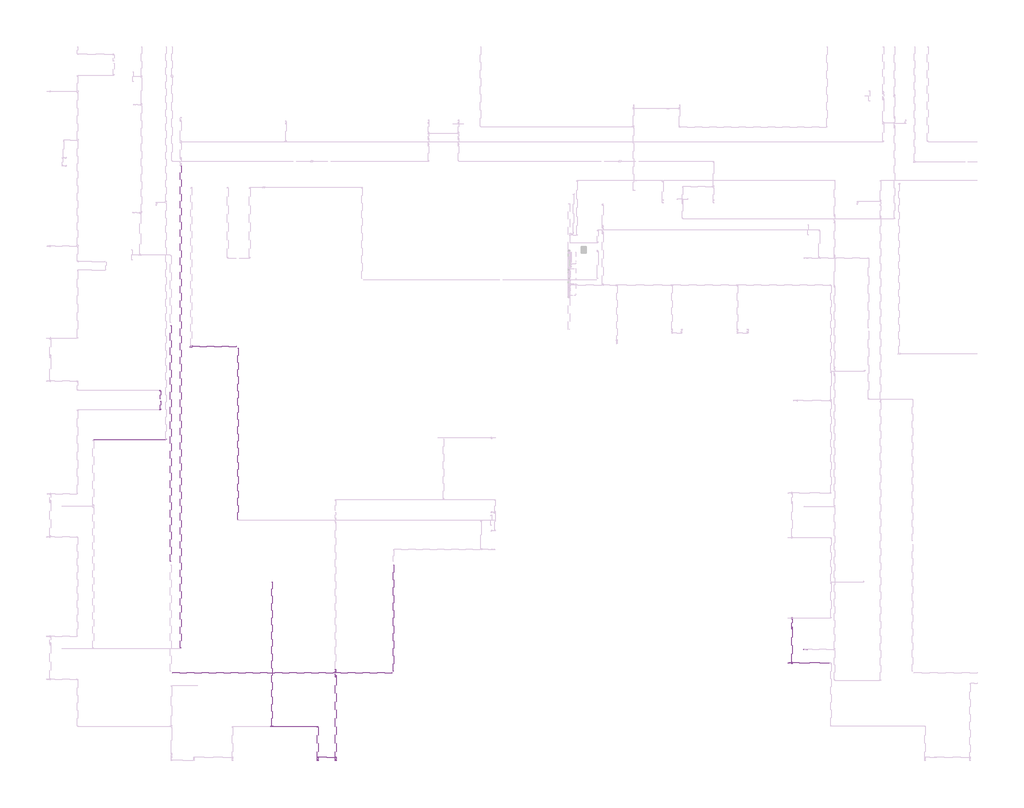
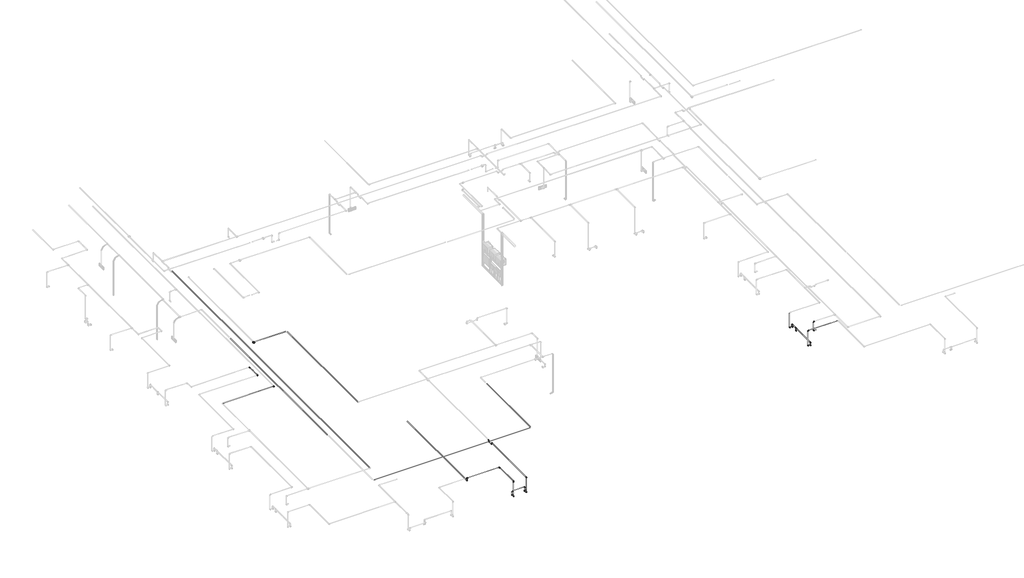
# One storey, part 3 of 40: 36 cable carrier segments, 24 cable carrier fittings, 5 electric appliances, 1 alarm.
"""IFC4 building model written with IfcOpenShell, lengths in millimetres."""

from ifc_helpers import new_model, si_unit, point, frame, frame_2d, origin, place, context, project, spatial, circle_curve, trimmed, segment, composite_curve, outline, extrude, transform, mapped, element, save
from components import alarm_a2247946, cable_carrier_fitting_69f1a801, cable_carrier_fitting_8fd13dfc, electric_appliance_5961a143

model = new_model("IFC4")

# Units and contexts
model_context = context("Model", 3, world=origin())
ifc_project = project(units=[si_unit("LENGTHUNIT", "METRE", prefix="MILLI")], contexts=[model_context])

# Site, building, storey
site = spatial("IfcSite", under=ifc_project)
building = spatial("IfcBuilding", under=site)
storey = spatial("IfcBuildingStorey", under=building, Name="1 этаж", Elevation=0.0)

# Alarm
placement = place(None, origin())
alarm_shape = alarm_a2247946(model_context)
element("IfcAlarm", 1, ObjectType="RBZ_ИзоляторШлейфа_Рубеж_ИЗ-1_прот.R3(плоскость) : ИЗ-1 прот.R3", at=placement, inside=storey, context=model_context, shape_type="MappedRepresentation", body=[
    mapped(alarm_shape, transform((-34172.3240021, -270.3629895, 3197.75), x_axis=(1.0, 0.0, 0.0), y_axis=(0.0, 1.0, 0.0), z_axis=(0.0, 0.0, 1.0))),
])

# Cable carrier fittings
cable_carrier_fitting_shape = cable_carrier_fitting_69f1a801(model_context)
element("IfcCableCarrierFitting", 2, ObjectType="ADSK_Поворот_Минимальный размер : Неспецифицируемый", at=placement, inside=storey, context=model_context, shape_type="MappedRepresentation", body=[
    mapped(cable_carrier_fitting_shape, transform((-29965.3597128, -9694.8325029, 3187.0), x_axis=(0.0, -1.0, 0.0), y_axis=(0.0, 0.0, -1.0), z_axis=(1.0, 0.0, 0.0))),
])
element("IfcCableCarrierFitting", 3, ObjectType="ADSK_Поворот_Минимальный размер : Неспецифицируемый", at=placement, inside=storey, context=model_context, shape_type="MappedRepresentation", body=[
    mapped(cable_carrier_fitting_shape, transform((-29965.3597128, -9694.8325029, 3125.0), x_axis=(0.0, 0.0, -1.0), y_axis=(0.03423048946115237, -0.9994139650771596, 0.0), z_axis=(-0.9994139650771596, -0.03423048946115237, 0.0))),
])
element("IfcCableCarrierFitting", 4, ObjectType="ADSK_Поворот_Минимальный размер : Неспецифицируемый", at=placement, inside=storey, context=model_context, shape_type="MappedRepresentation", body=[
    mapped(cable_carrier_fitting_shape, transform((-29958.681479, -9889.8142364, 3125.0), x_axis=(0.0, 0.0, -1.0), y_axis=(-0.0342304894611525, 0.9994139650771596, 0.0), z_axis=(0.9994139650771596, 0.0342304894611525, 0.0))),
])
element("IfcCableCarrierFitting", 5, ObjectType="ADSK_Поворот_Минимальный размер : Неспецифицируемый", at=placement, inside=storey, context=model_context, shape_type="MappedRepresentation", body=[
    mapped(cable_carrier_fitting_shape, transform((-29958.681479, -12359.5627951, 2535.0911237), x_axis=(0.0, -1.0, 0.0), y_axis=(0.0, 0.0, 1.0), z_axis=(-1.0, 0.0, 0.0))),
])
element("IfcCableCarrierFitting", 6, ObjectType="ADSK_Поворот_Минимальный размер : Неспецифицируемый", at=placement, inside=storey, context=model_context, shape_type="MappedRepresentation", body=[
    mapped(cable_carrier_fitting_shape, transform((-29958.681479, -12359.5627951, 3187.0), x_axis=(0.0, 0.0, 1.0), y_axis=(0.0, 1.0, 0.0), z_axis=(-1.0, 0.0, 0.0))),
])
element("IfcCableCarrierFitting", 7, ObjectType="ADSK_Поворот_Минимальный размер : Неспецифицируемый", at=placement, inside=storey, context=model_context, shape_type="MappedRepresentation", body=[
    mapped(cable_carrier_fitting_shape, transform((-29958.681479, -9889.8142364, 3187.0), x_axis=(0.0, 0.0, 1.0), y_axis=(0.0, -1.0, 0.0), z_axis=(1.0, 0.0, 0.0))),
])
element("IfcCableCarrierFitting", 8, ObjectType="ADSK_Поворот_Минимальный размер : Неспецифицируемый", at=placement, inside=storey, context=model_context, shape_type="MappedRepresentation", body=[
    mapped(cable_carrier_fitting_shape, transform((-30482.3240021, -12259.3629895, 2700.0), x_axis=(0.0, 0.0, 1.0), y_axis=(1.0, 0.0, 0.0), z_axis=(0.0, 1.0, 0.0))),
])
element("IfcCableCarrierFitting", 9, ObjectType="ADSK_Поворот_Минимальный размер : Неспецифицируемый", at=placement, inside=storey, context=model_context, shape_type="MappedRepresentation", body=[
    mapped(cable_carrier_fitting_shape, transform((-29958.681479, -12259.3629895, 2700.0), x_axis=(0.0, 0.0, 1.0), y_axis=(-1.0, 0.0, 0.0), z_axis=(0.0, -1.0, 0.0))),
])
element("IfcCableCarrierFitting", 10, ObjectType="ADSK_Поворот_Минимальный размер : Неспецифицируемый", at=placement, inside=storey, context=model_context, shape_type="MappedRepresentation", body=[
    mapped(cable_carrier_fitting_shape, transform((-30482.3240021, -12359.5627951, 2535.0527319), x_axis=(0.0, -1.0, 0.0), y_axis=(0.0, 0.0, 1.0), z_axis=(-1.0, 0.0, 0.0))),
])
element("IfcCableCarrierFitting", 11, ObjectType="ADSK_Поворот_Минимальный размер : Неспецифицируемый", at=placement, inside=storey, context=model_context, shape_type="MappedRepresentation", body=[
    mapped(cable_carrier_fitting_shape, transform((-30482.3240021, -11359.5627951, 3187.0), x_axis=(0.0, 1.0, 0.0), y_axis=(-1.0, 0.0, 0.0), z_axis=(0.0, 0.0, 1.0))),
])
element("IfcCableCarrierFitting", 12, ObjectType="ADSK_Поворот_Минимальный размер : Неспецифицируемый", at=placement, inside=storey, context=model_context, shape_type="MappedRepresentation", body=[
    mapped(cable_carrier_fitting_shape, transform((-30482.3240021, -12359.5627951, 3187.0), x_axis=(0.0, 0.0, 1.0), y_axis=(0.0, 1.0, 0.0), z_axis=(-1.0, 0.0, 0.0))),
])
element("IfcCableCarrierFitting", 13, ObjectType="ADSK_Поворот_Минимальный размер : Неспецифицируемый", at=placement, inside=storey, context=model_context, shape_type="MappedRepresentation", body=[
    mapped(cable_carrier_fitting_shape, transform((-35074.8240021, -1547.9012067, 3187.0), x_axis=(0.0, 1.0, 0.0), y_axis=(-1.0, 0.0, 0.0), z_axis=(0.0, 0.0, 1.0))),
])
element("IfcCableCarrierFitting", 14, ObjectType="ADSK_Поворот_Минимальный размер : Неспецифицируемый", at=placement, inside=storey, context=model_context, shape_type="MappedRepresentation", body=[
    mapped(cable_carrier_fitting_shape, transform((-35074.8240021, -2112.8629895, 3187.0), x_axis=(1.0, 0.0, 0.0), y_axis=(0.0, 1.0, 0.0), z_axis=(0.0, 0.0, 1.0))),
])
element("IfcCableCarrierFitting", 15, ObjectType="ADSK_Поворот_Минимальный размер : Неспецифицируемый", at=placement, inside=storey, context=model_context, shape_type="MappedRepresentation", body=[
    mapped(cable_carrier_fitting_shape, transform((-16646.3240021, -8200.3629895, 2650.0), x_axis=(0.0, 0.0, 1.0), y_axis=(0.0, -1.0, 0.0), z_axis=(1.0, 0.0, 0.0))),
])
element("IfcCableCarrierFitting", 16, ObjectType="ADSK_Поворот_Минимальный размер : Неспецифицируемый", at=placement, inside=storey, context=model_context, shape_type="MappedRepresentation", body=[
    mapped(cable_carrier_fitting_shape, transform((-16646.3240021, -9505.3629895, 2650.0), x_axis=(0.0, 0.0, 1.0), y_axis=(0.0, 1.0, 0.0), z_axis=(-1.0, 0.0, 0.0))),
])
element("IfcCableCarrierFitting", 17, ObjectType="ADSK_Поворот_Минимальный размер : Неспецифицируемый", at=placement, inside=storey, context=model_context, shape_type="MappedRepresentation", body=[
    mapped(cable_carrier_fitting_shape, transform((-16746.5238077, -9505.3629895, 2534.0911237), x_axis=(-1.0, 0.0, 0.0), y_axis=(0.0, 0.0, 1.0), z_axis=(0.0, 1.0, 0.0))),
])
element("IfcCableCarrierFitting", 18, ObjectType="ADSK_Поворот_Минимальный размер : Неспецифицируемый", at=placement, inside=storey, context=model_context, shape_type="MappedRepresentation", body=[
    mapped(cable_carrier_fitting_shape, transform((-16746.5238077, -9505.3629895, 3187.0), x_axis=(0.0, 0.0, 1.0), y_axis=(1.0, 0.0, 0.0), z_axis=(0.0, 1.0, 0.0))),
])
element("IfcCableCarrierFitting", 19, ObjectType="ADSK_Поворот_Минимальный размер : Неспецифицируемый", at=placement, inside=storey, context=model_context, shape_type="MappedRepresentation", body=[
    mapped(cable_carrier_fitting_shape, transform((-16746.5238077, -8200.3629895, 2534.0911237), x_axis=(-1.0, 0.0, 0.0), y_axis=(0.0, 0.0, 1.0), z_axis=(0.0, 1.0, 0.0))),
])
element("IfcCableCarrierFitting", 20, ObjectType="ADSK_Поворот_Минимальный размер : Неспецифицируемый", at=placement, inside=storey, context=model_context, shape_type="MappedRepresentation", body=[
    mapped(cable_carrier_fitting_shape, transform((-31822.3240021, -11359.5627951, 3090.0), x_axis=(0.0, -1.0, 0.0), y_axis=(0.0, 0.0, 1.0), z_axis=(-1.0, 0.0, 0.0))),
])
element("IfcCableCarrierFitting", 21, ObjectType="ADSK_Поворот_Минимальный размер : Неспецифицируемый", at=placement, inside=storey, context=model_context, shape_type="MappedRepresentation", body=[
    mapped(cable_carrier_fitting_shape, transform((-16289.5238077, -9110.3629895, 2797.4861504), x_axis=(-1.0, 0.0, 0.0), y_axis=(0.0, 0.0, 1.0), z_axis=(0.0, 1.0, 0.0))),
])
element("IfcCableCarrierFitting", 22, ObjectType="ADSK_Поворот_Минимальный размер : Неспецифицируемый", at=placement, inside=storey, context=model_context, shape_type="MappedRepresentation", body=[
    mapped(cable_carrier_fitting_shape, transform((-16289.5238077, -9110.3629895, 3180.0), x_axis=(0.0, 0.0, 1.0), y_axis=(1.0, 0.0, 0.0), z_axis=(0.0, 1.0, 0.0))),
])
element("IfcCableCarrierFitting", 23, ObjectType="ADSK_Поворот_Минимальный размер : Неспецифицируемый", at=placement, inside=storey, context=model_context, shape_type="MappedRepresentation", body=[
    mapped(cable_carrier_fitting_shape, transform((-34914.8240021, -2991.9352607, 3180.0), x_axis=(1.0, 0.0, 0.0), y_axis=(0.0, 0.9999999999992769, -1.2025722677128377e-06), z_axis=(0.0, 1.2025722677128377e-06, 0.9999999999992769))),
])
cable_carrier_fitting_2_shape = cable_carrier_fitting_8fd13dfc(model_context)
element("IfcCableCarrierFitting", 24, ObjectType="ADSK_Тройник : ПВХ", at=placement, inside=storey, context=model_context, shape_type="MappedRepresentation", body=[
    mapped(cable_carrier_fitting_2_shape, transform((-16646.3240021, -8480.3629895, 2650.0), x_axis=(0.0, 1.0, 0.0), y_axis=(0.0, 0.0, 1.0), z_axis=(1.0, 0.0, 0.0))),
])
element("IfcCableCarrierFitting", 25, ObjectType="ADSK_Тройник : ПВХ", at=placement, inside=storey, context=model_context, shape_type="MappedRepresentation", body=[
    mapped(cable_carrier_fitting_2_shape, transform((-31822.3240021, -11359.5627951, 3187.0), x_axis=(-1.0, 0.0, 0.0), y_axis=(0.0, 0.0, 1.0), z_axis=(0.0, 1.0, 0.0))),
])

# Cable carrier segments
element("IfcCableCarrierSegment", 26, ObjectType="Гофрированная труба", at=placement, inside=storey, context=model_context, shape_type="SweptSolid", body=[
    extrude(outline(composite_curve([segment(trimmed(circle_curve(frame_2d((-270.3629895, 3187.0)), 10.0), [point((-260.3629895, 3187.0))], [point((-270.3629895, 3177.0))], False, "CARTESIAN"), True, "CONTINUOUS"), segment(trimmed(circle_curve(frame_2d((-270.3629895, 3187.0)), 10.0), [point((-270.3629895, 3177.0))], [point((-280.3629895, 3187.0))], False, "CARTESIAN"), True, "CONTINUOUS"), segment(trimmed(circle_curve(frame_2d((-270.3629895, 3187.0)), 10.0), [point((-280.3629895, 3187.0))], [point((-270.3629895, 3197.0))], False, "CARTESIAN"), True, "CONTINUOUS"), segment(trimmed(circle_curve(frame_2d((-270.3629895, 3187.0)), 10.0), [point((-270.3629895, 3197.0))], [point((-260.3629895, 3187.0))], False, "CARTESIAN"), True, "CONTINUOUS")], self_intersect=False)), frame((-34146.3240021, 0.0, 0.0), z_axis=(1.0, 0.0, 0.0), x_axis=(0.0, 1.0, 0.0)), (0.0, 0.0, 1.0), 1287.5),
])
element("IfcCableCarrierSegment", 27, ObjectType="Гофрированная труба", at=placement, inside=storey, context=model_context, shape_type="SweptSolid", body=[
    extrude(outline(composite_curve([segment(trimmed(circle_curve(frame_2d((3187.0, -28274.7740021)), 10.0), [point((3187.0, -28264.7740021))], [point((3197.0, -28274.7740021))], False, "CARTESIAN"), True, "CONTINUOUS"), segment(trimmed(circle_curve(frame_2d((3187.0, -28274.7740021)), 10.0), [point((3197.0, -28274.7740021))], [point((3187.0, -28284.7740021))], False, "CARTESIAN"), True, "CONTINUOUS"), segment(trimmed(circle_curve(frame_2d((3187.0, -28274.7740021)), 10.0), [point((3187.0, -28284.7740021))], [point((3177.0, -28274.7740021))], False, "CARTESIAN"), True, "CONTINUOUS"), segment(trimmed(circle_curve(frame_2d((3187.0, -28274.7740021)), 10.0), [point((3177.0, -28274.7740021))], [point((3187.0, -28264.7740021))], False, "CARTESIAN"), True, "CONTINUOUS")], self_intersect=False)), frame((0.0, -9748.8629895, 0.0), z_axis=(0.0, 1.0, 0.0), x_axis=(0.0, 0.0, 1.0)), (0.0, 0.0, 1.0), 3107.0),
])
element("IfcCableCarrierSegment", 28, ObjectType="Гофрированная труба", at=placement, inside=storey, context=model_context, shape_type="SweptSolid", body=[
    extrude(outline(composite_curve([segment(trimmed(circle_curve(frame_2d((-9795.3629895, 3187.0)), 10.0), [point((-9805.3629895, 3187.0))], [point((-9795.3629895, 3197.0))], False, "CARTESIAN"), True, "CONTINUOUS"), segment(trimmed(circle_curve(frame_2d((-9795.3629895, 3187.0)), 10.0), [point((-9795.3629895, 3197.0))], [point((-9785.3629895, 3187.0))], False, "CARTESIAN"), True, "CONTINUOUS"), segment(trimmed(circle_curve(frame_2d((-9795.3629895, 3187.0)), 10.0), [point((-9785.3629895, 3187.0))], [point((-9795.3629895, 3177.0))], False, "CARTESIAN"), True, "CONTINUOUS"), segment(trimmed(circle_curve(frame_2d((-9795.3629895, 3187.0)), 10.0), [point((-9795.3629895, 3177.0))], [point((-9805.3629895, 3187.0))], False, "CARTESIAN"), True, "CONTINUOUS")], self_intersect=False)), frame((-34725.8240021, 0.0, 0.0), z_axis=(1.0, 0.0, 0.0), x_axis=(0.0, 1.0, 0.0)), (0.0, 0.0, 1.0), 6404.55),
])
element("IfcCableCarrierSegment", 29, ObjectType="Гофрированная труба", at=placement, inside=storey, context=model_context, shape_type="SweptSolid", body=[
    extrude(outline(composite_curve([segment(trimmed(circle_curve(frame_2d((3187.0, -34772.3240021)), 10.0), [point((3187.0, -34762.3240021))], [point((3197.0, -34772.3240021))], False, "CARTESIAN"), True, "CONTINUOUS"), segment(trimmed(circle_curve(frame_2d((3187.0, -34772.3240021)), 10.0), [point((3197.0, -34772.3240021))], [point((3187.0, -34782.3240021))], False, "CARTESIAN"), True, "CONTINUOUS"), segment(trimmed(circle_curve(frame_2d((3187.0, -34772.3240021)), 10.0), [point((3187.0, -34782.3240021))], [point((3177.0, -34772.3240021))], False, "CARTESIAN"), True, "CONTINUOUS"), segment(trimmed(circle_curve(frame_2d((3187.0, -34772.3240021)), 10.0), [point((3177.0, -34772.3240021))], [point((3187.0, -34762.3240021))], False, "CARTESIAN"), True, "CONTINUOUS")], self_intersect=False)), frame((0.0, -6548.8629895, 0.0), z_axis=(0.0, 1.0, 0.0), x_axis=(0.0, 0.0, 1.0)), (0.0, 0.0, 1.0), 6889.5),
])
element("IfcCableCarrierSegment", 30, ObjectType="Гофрированная труба", at=placement, inside=storey, context=model_context, shape_type="SweptSolid", body=[
    extrude(outline(composite_curve([segment(trimmed(circle_curve(frame_2d((3187.0, -32812.3240021)), 10.0), [point((3187.0, -32802.3240021))], [point((3197.0, -32812.3240021))], False, "CARTESIAN"), True, "CONTINUOUS"), segment(trimmed(circle_curve(frame_2d((3187.0, -32812.3240021)), 10.0), [point((3197.0, -32812.3240021))], [point((3187.0, -32822.3240021))], False, "CARTESIAN"), True, "CONTINUOUS"), segment(trimmed(circle_curve(frame_2d((3187.0, -32812.3240021)), 10.0), [point((3187.0, -32822.3240021))], [point((3177.0, -32812.3240021))], False, "CARTESIAN"), True, "CONTINUOUS"), segment(trimmed(circle_curve(frame_2d((3187.0, -32812.3240021)), 10.0), [point((3177.0, -32812.3240021))], [point((3187.0, -32802.3240021))], False, "CARTESIAN"), True, "CONTINUOUS")], self_intersect=False)), frame((0.0, -5319.3629895, 0.0), z_axis=(0.0, 1.0, 0.0), x_axis=(0.0, 0.0, 1.0)), (0.0, 0.0, 1.0), 5002.5),
])
element("IfcCableCarrierSegment", 31, ObjectType="Гофрированная труба", at=placement, inside=storey, context=model_context, shape_type="SweptSolid", body=[
    extrude(outline(composite_curve([segment(trimmed(circle_curve(frame_2d((0.0, -10.0)), 10.0), [point((-9.9999999, -10.0))], [point((0.0, 0.0))], False, "CARTESIAN"), True, "CONTINUOUS"), segment(trimmed(circle_curve(frame_2d((0.0, -10.0)), 10.0), [point((0.0, 0.0))], [point((10.0, -10.0))], False, "CARTESIAN"), True, "CONTINUOUS"), segment(trimmed(circle_curve(frame_2d((0.0, -10.0)), 10.0), [point((10.0, -10.0))], [point((0.0, -20.0))], False, "CARTESIAN"), True, "CONTINUOUS"), segment(trimmed(circle_curve(frame_2d((0.0, -10.0)), 10.0), [point((0.0, -20.0))], [point((-9.9999999, -10.0))], False, "CARTESIAN"), True, "CONTINUOUS")], self_intersect=False)), frame((-29959.4003193, -9868.8265431, 3115.0), z_axis=(-0.03423048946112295, 0.9994139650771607, 0.0), x_axis=(0.9994139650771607, 0.03423048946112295, 0.0)), (0.0, 0.0, 1.0), 153.0960665),
])
element("IfcCableCarrierSegment", 32, ObjectType="Гофрированная труба", at=placement, inside=storey, context=model_context, shape_type="SweptSolid", body=[
    extrude(outline(composite_curve([segment(trimmed(circle_curve(frame_2d((0.0, -10.0)), 10.0), [point((-10.0, -10.0))], [point((0.0, 0.0))], False, "CARTESIAN"), True, "CONTINUOUS"), segment(trimmed(circle_curve(frame_2d((0.0, -10.0)), 10.0), [point((0.0, 0.0))], [point((10.0, -10.0))], False, "CARTESIAN"), True, "CONTINUOUS"), segment(trimmed(circle_curve(frame_2d((0.0, -10.0)), 10.0), [point((10.0, -10.0))], [point((0.0, -20.0))], False, "CARTESIAN"), True, "CONTINUOUS"), segment(trimmed(circle_curve(frame_2d((0.0, -10.0)), 10.0), [point((0.0, -20.0))], [point((-10.0, -10.0))], False, "CARTESIAN"), True, "CONTINUOUS")], self_intersect=False)), frame((-29958.681479, -9899.8142364, 3146.0), z_axis=(0.0, 1.7325874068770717e-12, 1.0), x_axis=(-1.0, 0.0, 0.0)), (0.0, 0.0, 1.0), 20.0),
])
element("IfcCableCarrierSegment", 33, ObjectType="Гофрированная труба", at=placement, inside=storey, context=model_context, shape_type="SweptSolid", body=[
    extrude(outline(composite_curve([segment(trimmed(circle_curve(frame_2d((-29965.3597128, -9694.8325029)), 10.0), [point((-29955.3597128, -9694.8325029))], [point((-29965.3597128, -9704.8325029))], False, "CARTESIAN"), True, "CONTINUOUS"), segment(trimmed(circle_curve(frame_2d((-29965.3597128, -9694.8325029)), 10.0), [point((-29965.3597128, -9704.8325029))], [point((-29975.3597128, -9694.8325029))], False, "CARTESIAN"), True, "CONTINUOUS"), segment(trimmed(circle_curve(frame_2d((-29965.3597128, -9694.8325029)), 10.0), [point((-29975.3597128, -9694.8325029))], [point((-29965.3597128, -9684.8325029))], False, "CARTESIAN"), True, "CONTINUOUS"), segment(trimmed(circle_curve(frame_2d((-29965.3597128, -9694.8325029)), 10.0), [point((-29965.3597128, -9684.8325029))], [point((-29955.3597128, -9694.8325029))], False, "CARTESIAN"), True, "CONTINUOUS")], self_intersect=False)), frame((0.0, 0.0, 3146.0), z_axis=(0.0, 0.0, 1.0), x_axis=(1.0, 0.0, 0.0)), (0.0, 0.0, 1.0), 20.0),
])
element("IfcCableCarrierSegment", 34, ObjectType="Гофрированная труба", at=placement, inside=storey, context=model_context, shape_type="SweptSolid", body=[
    extrude(outline(composite_curve([segment(trimmed(circle_curve(frame_2d((3187.0, -29958.681479)), 10.0), [point((3187.0, -29948.681479))], [point((3197.0, -29958.681479))], False, "CARTESIAN"), True, "CONTINUOUS"), segment(trimmed(circle_curve(frame_2d((3187.0, -29958.681479)), 10.0), [point((3197.0, -29958.681479))], [point((3187.0, -29968.681479))], False, "CARTESIAN"), True, "CONTINUOUS"), segment(trimmed(circle_curve(frame_2d((3187.0, -29958.681479)), 10.0), [point((3187.0, -29968.681479))], [point((3177.0, -29958.681479))], False, "CARTESIAN"), True, "CONTINUOUS"), segment(trimmed(circle_curve(frame_2d((3187.0, -29958.681479)), 10.0), [point((3177.0, -29958.681479))], [point((3187.0, -29948.681479))], False, "CARTESIAN"), True, "CONTINUOUS")], self_intersect=False)), frame((0.0, -12338.5627951, 0.0), z_axis=(0.0, 1.0, 0.0), x_axis=(0.0, 0.0, 1.0)), (0.0, 0.0, 1.0), 2427.7485587),
])
element("IfcCableCarrierSegment", 35, ObjectType="Гофрированная труба", at=placement, inside=storey, context=model_context, shape_type="SweptSolid", body=[
    extrude(outline(composite_curve([segment(trimmed(circle_curve(frame_2d((2535.0911237, -29958.681479)), 10.0), [point((2535.0911237, -29968.681479))], [point((2525.0911237, -29958.681479))], False, "CARTESIAN"), True, "CONTINUOUS"), segment(trimmed(circle_curve(frame_2d((2535.0911237, -29958.681479)), 10.0), [point((2525.0911237, -29958.681479))], [point((2535.0911237, -29948.681479))], False, "CARTESIAN"), True, "CONTINUOUS"), segment(trimmed(circle_curve(frame_2d((2535.0911237, -29958.681479)), 10.0), [point((2535.0911237, -29948.681479))], [point((2545.0911237, -29958.681479))], False, "CARTESIAN"), True, "CONTINUOUS"), segment(trimmed(circle_curve(frame_2d((2535.0911237, -29958.681479)), 10.0), [point((2545.0911237, -29958.681479))], [point((2535.0911237, -29968.681479))], False, "CARTESIAN"), True, "CONTINUOUS")], self_intersect=False)), frame((0.0, -12338.5627951, 0.0), z_axis=(0.0, 1.0, 0.0), x_axis=(0.0, 0.0, 1.0)), (0.0, 0.0, 1.0), 76.1998056),
])
element("IfcCableCarrierSegment", 36, ObjectType="Гофрированная труба", at=placement, inside=storey, context=model_context, shape_type="SweptSolid", body=[
    extrude(outline(composite_curve([segment(trimmed(circle_curve(frame_2d((-29958.681479, -12359.5627951)), 10.0), [point((-29968.681479, -12359.5627951))], [point((-29958.681479, -12349.5627951))], False, "CARTESIAN"), True, "CONTINUOUS"), segment(trimmed(circle_curve(frame_2d((-29958.681479, -12359.5627951)), 10.0), [point((-29958.681479, -12349.5627951))], [point((-29948.681479, -12359.5627951))], False, "CARTESIAN"), True, "CONTINUOUS"), segment(trimmed(circle_curve(frame_2d((-29958.681479, -12359.5627951)), 10.0), [point((-29948.681479, -12359.5627951))], [point((-29958.681479, -12369.5627951))], False, "CARTESIAN"), True, "CONTINUOUS"), segment(trimmed(circle_curve(frame_2d((-29958.681479, -12359.5627951)), 10.0), [point((-29958.681479, -12369.5627951))], [point((-29968.681479, -12359.5627951))], False, "CARTESIAN"), True, "CONTINUOUS")], self_intersect=False)), frame((0.0, 0.0, 2556.0911237), z_axis=(0.0, 0.0, 1.0), x_axis=(1.0, 0.0, 0.0)), (0.0, 0.0, 1.0), 609.9088763),
])
element("IfcCableCarrierSegment", 37, ObjectType="Гофрированная труба", at=placement, inside=storey, context=model_context, shape_type="SweptSolid", body=[
    extrude(outline(composite_curve([segment(trimmed(circle_curve(frame_2d((-12259.3629895, 2700.0)), 10.0), [point((-12269.3629895, 2700.0))], [point((-12259.3629895, 2710.0))], False, "CARTESIAN"), True, "CONTINUOUS"), segment(trimmed(circle_curve(frame_2d((-12259.3629895, 2700.0)), 10.0), [point((-12259.3629895, 2710.0))], [point((-12249.3629895, 2700.0))], False, "CARTESIAN"), True, "CONTINUOUS"), segment(trimmed(circle_curve(frame_2d((-12259.3629895, 2700.0)), 10.0), [point((-12249.3629895, 2700.0))], [point((-12259.3629895, 2690.0))], False, "CARTESIAN"), True, "CONTINUOUS"), segment(trimmed(circle_curve(frame_2d((-12259.3629895, 2700.0)), 10.0), [point((-12259.3629895, 2690.0))], [point((-12269.3629895, 2700.0))], False, "CARTESIAN"), True, "CONTINUOUS")], self_intersect=False)), frame((-30461.3240021, 0.0, 0.0), z_axis=(1.0, 0.0, 0.0), x_axis=(0.0, 1.0, 0.0)), (0.0, 0.0, 1.0), 481.6425231),
])
element("IfcCableCarrierSegment", 38, ObjectType="Гофрированная труба", at=placement, inside=storey, context=model_context, shape_type="SweptSolid", body=[
    extrude(outline(composite_curve([segment(trimmed(circle_curve(frame_2d((-29958.681479, -12259.3629895)), 10.0), [point((-29968.681479, -12259.3629895))], [point((-29958.681479, -12249.3629895))], False, "CARTESIAN"), True, "CONTINUOUS"), segment(trimmed(circle_curve(frame_2d((-29958.681479, -12259.3629895)), 10.0), [point((-29958.681479, -12249.3629895))], [point((-29948.681479, -12259.3629895))], False, "CARTESIAN"), True, "CONTINUOUS"), segment(trimmed(circle_curve(frame_2d((-29958.681479, -12259.3629895)), 10.0), [point((-29948.681479, -12259.3629895))], [point((-29958.681479, -12269.3629895))], False, "CARTESIAN"), True, "CONTINUOUS"), segment(trimmed(circle_curve(frame_2d((-29958.681479, -12259.3629895)), 10.0), [point((-29958.681479, -12269.3629895))], [point((-29968.681479, -12259.3629895))], False, "CARTESIAN"), True, "CONTINUOUS")], self_intersect=False)), frame((0.0, 0.0, 2564.1207114), z_axis=(0.0, 0.0, 1.0), x_axis=(1.0, 0.0, 0.0)), (0.0, 0.0, 1.0), 114.8792886),
])
element("IfcCableCarrierSegment", 39, ObjectType="Гофрированная труба", at=placement, inside=storey, context=model_context, shape_type="SweptSolid", body=[
    extrude(outline(composite_curve([segment(trimmed(circle_curve(frame_2d((-30482.3240021, -12259.3629895)), 10.0), [point((-30492.3240021, -12259.3629895))], [point((-30482.3240021, -12249.3629895))], False, "CARTESIAN"), True, "CONTINUOUS"), segment(trimmed(circle_curve(frame_2d((-30482.3240021, -12259.3629895)), 10.0), [point((-30482.3240021, -12249.3629895))], [point((-30472.3240021, -12259.3629895))], False, "CARTESIAN"), True, "CONTINUOUS"), segment(trimmed(circle_curve(frame_2d((-30482.3240021, -12259.3629895)), 10.0), [point((-30472.3240021, -12259.3629895))], [point((-30482.3240021, -12269.3629895))], False, "CARTESIAN"), True, "CONTINUOUS"), segment(trimmed(circle_curve(frame_2d((-30482.3240021, -12259.3629895)), 10.0), [point((-30482.3240021, -12269.3629895))], [point((-30492.3240021, -12259.3629895))], False, "CARTESIAN"), True, "CONTINUOUS")], self_intersect=False)), frame((0.0, 0.0, 2564.0823197), z_axis=(0.0, 0.0, 1.0), x_axis=(1.0, 0.0, 0.0)), (0.0, 0.0, 1.0), 114.9176803),
])
element("IfcCableCarrierSegment", 40, ObjectType="Гофрированная труба", at=placement, inside=storey, context=model_context, shape_type="SweptSolid", body=[
    extrude(outline(composite_curve([segment(trimmed(circle_curve(frame_2d((3187.0, -30482.3240021)), 10.0), [point((3187.0, -30492.3240021))], [point((3177.0, -30482.3240021))], False, "CARTESIAN"), True, "CONTINUOUS"), segment(trimmed(circle_curve(frame_2d((3187.0, -30482.3240021)), 10.0), [point((3177.0, -30482.3240021))], [point((3187.0, -30472.3240021))], False, "CARTESIAN"), True, "CONTINUOUS"), segment(trimmed(circle_curve(frame_2d((3187.0, -30482.3240021)), 10.0), [point((3187.0, -30472.3240021))], [point((3197.0, -30482.3240021))], False, "CARTESIAN"), True, "CONTINUOUS"), segment(trimmed(circle_curve(frame_2d((3187.0, -30482.3240021)), 10.0), [point((3197.0, -30482.3240021))], [point((3187.0, -30492.3240021))], False, "CARTESIAN"), True, "CONTINUOUS")], self_intersect=False)), frame((0.0, -12338.5627951, 0.0), z_axis=(0.0, 1.0, 0.0), x_axis=(0.0, 0.0, 1.0)), (0.0, 0.0, 1.0), 958.0),
])
element("IfcCableCarrierSegment", 41, ObjectType="Гофрированная труба", at=placement, inside=storey, context=model_context, shape_type="SweptSolid", body=[
    extrude(outline(composite_curve([segment(trimmed(circle_curve(frame_2d((2535.0527319, -30482.3240021)), 10.0), [point((2535.0527319, -30492.3240021))], [point((2525.0527319, -30482.3240021))], False, "CARTESIAN"), True, "CONTINUOUS"), segment(trimmed(circle_curve(frame_2d((2535.0527319, -30482.3240021)), 10.0), [point((2525.0527319, -30482.3240021))], [point((2535.0527319, -30472.3240021))], False, "CARTESIAN"), True, "CONTINUOUS"), segment(trimmed(circle_curve(frame_2d((2535.0527319, -30482.3240021)), 10.0), [point((2535.0527319, -30472.3240021))], [point((2545.0527319, -30482.3240021))], False, "CARTESIAN"), True, "CONTINUOUS"), segment(trimmed(circle_curve(frame_2d((2535.0527319, -30482.3240021)), 10.0), [point((2545.0527319, -30482.3240021))], [point((2535.0527319, -30492.3240021))], False, "CARTESIAN"), True, "CONTINUOUS")], self_intersect=False)), frame((0.0, -12338.5627951, 0.0), z_axis=(0.0, 1.0, 0.0), x_axis=(0.0, 0.0, 1.0)), (0.0, 0.0, 1.0), 76.1998056),
])
element("IfcCableCarrierSegment", 42, ObjectType="Гофрированная труба", at=placement, inside=storey, context=model_context, shape_type="SweptSolid", body=[
    extrude(outline(composite_curve([segment(trimmed(circle_curve(frame_2d((-30482.3240021, -12359.5627951)), 10.0), [point((-30492.3240021, -12359.5627951))], [point((-30482.3240021, -12349.5627951))], False, "CARTESIAN"), True, "CONTINUOUS"), segment(trimmed(circle_curve(frame_2d((-30482.3240021, -12359.5627951)), 10.0), [point((-30482.3240021, -12349.5627951))], [point((-30472.3240021, -12359.5627951))], False, "CARTESIAN"), True, "CONTINUOUS"), segment(trimmed(circle_curve(frame_2d((-30482.3240021, -12359.5627951)), 10.0), [point((-30472.3240021, -12359.5627951))], [point((-30482.3240021, -12369.5627951))], False, "CARTESIAN"), True, "CONTINUOUS"), segment(trimmed(circle_curve(frame_2d((-30482.3240021, -12359.5627951)), 10.0), [point((-30482.3240021, -12369.5627951))], [point((-30492.3240021, -12359.5627951))], False, "CARTESIAN"), True, "CONTINUOUS")], self_intersect=False)), frame((0.0, 0.0, 2556.0527319), z_axis=(0.0, 0.0, 1.0), x_axis=(1.0, 0.0, 0.0)), (0.0, 0.0, 1.0), 609.9472681),
])
element("IfcCableCarrierSegment", 43, ObjectType="Гофрированная труба", at=placement, inside=storey, context=model_context, shape_type="SweptSolid", body=[
    extrude(outline(composite_curve([segment(trimmed(circle_curve(frame_2d((-11359.5627951, 3187.0)), 10.0), [point((-11369.5627951, 3187.0))], [point((-11359.5627951, 3197.0))], False, "CARTESIAN"), True, "CONTINUOUS"), segment(trimmed(circle_curve(frame_2d((-11359.5627951, 3187.0)), 10.0), [point((-11359.5627951, 3197.0))], [point((-11349.5627951, 3187.0))], False, "CARTESIAN"), True, "CONTINUOUS"), segment(trimmed(circle_curve(frame_2d((-11359.5627951, 3187.0)), 10.0), [point((-11349.5627951, 3187.0))], [point((-11359.5627951, 3177.0))], False, "CARTESIAN"), True, "CONTINUOUS"), segment(trimmed(circle_curve(frame_2d((-11359.5627951, 3187.0)), 10.0), [point((-11359.5627951, 3177.0))], [point((-11369.5627951, 3187.0))], False, "CARTESIAN"), True, "CONTINUOUS")], self_intersect=False)), frame((-31792.3240021, 0.0, 0.0), z_axis=(1.0, 0.0, 0.0), x_axis=(0.0, 1.0, 0.0)), (0.0, 0.0, 1.0), 1289.0),
])
element("IfcCableCarrierSegment", 44, ObjectType="Гофрированная труба", at=placement, inside=storey, context=model_context, shape_type="SweptSolid", body=[
    extrude(outline(composite_curve([segment(trimmed(circle_curve(frame_2d((3187.0, -35074.8240021)), 10.0), [point((3187.0, -35084.8240021))], [point((3177.0, -35074.8240021))], False, "CARTESIAN"), True, "CONTINUOUS"), segment(trimmed(circle_curve(frame_2d((3187.0, -35074.8240021)), 10.0), [point((3177.0, -35074.8240021))], [point((3187.0, -35064.8240021))], False, "CARTESIAN"), True, "CONTINUOUS"), segment(trimmed(circle_curve(frame_2d((3187.0, -35074.8240021)), 10.0), [point((3187.0, -35064.8240021))], [point((3197.0, -35074.8240021))], False, "CARTESIAN"), True, "CONTINUOUS"), segment(trimmed(circle_curve(frame_2d((3187.0, -35074.8240021)), 10.0), [point((3197.0, -35074.8240021))], [point((3187.0, -35084.8240021))], False, "CARTESIAN"), True, "CONTINUOUS")], self_intersect=False)), frame((0.0, -2091.8629895, 0.0), z_axis=(0.0, 1.0, 0.0), x_axis=(0.0, 0.0, 1.0)), (0.0, 0.0, 1.0), 229.0),
])
element("IfcCableCarrierSegment", 45, ObjectType="Гофрированная труба", at=placement, inside=storey, context=model_context, shape_type="SweptSolid", body=[
    extrude(outline(composite_curve([segment(trimmed(circle_curve(frame_2d((3187.0, -35074.8240021)), 10.0), [point((3187.0, -35064.8240021))], [point((3197.0, -35074.8240021))], False, "CARTESIAN"), True, "CONTINUOUS"), segment(trimmed(circle_curve(frame_2d((3187.0, -35074.8240021)), 10.0), [point((3197.0, -35074.8240021))], [point((3187.0, -35084.8240021))], False, "CARTESIAN"), True, "CONTINUOUS"), segment(trimmed(circle_curve(frame_2d((3187.0, -35074.8240021)), 10.0), [point((3187.0, -35084.8240021))], [point((3177.0, -35074.8240021))], False, "CARTESIAN"), True, "CONTINUOUS"), segment(trimmed(circle_curve(frame_2d((3187.0, -35074.8240021)), 10.0), [point((3177.0, -35074.8240021))], [point((3187.0, -35064.8240021))], False, "CARTESIAN"), True, "CONTINUOUS")], self_intersect=False)), frame((0.0, -1797.9012067, 0.0), z_axis=(0.0, 1.0, 0.0), x_axis=(0.0, 0.0, 1.0)), (0.0, 0.0, 1.0), 229.0),
])
element("IfcCableCarrierSegment", 46, ObjectType="Гофрированная труба", at=placement, inside=storey, context=model_context, shape_type="SweptSolid", body=[
    extrude(outline(composite_curve([segment(trimmed(circle_curve(frame_2d((-16646.3240021, -9505.3629895)), 10.0), [point((-16656.3240021, -9505.3629895))], [point((-16646.3240021, -9495.3629895))], False, "CARTESIAN"), True, "CONTINUOUS"), segment(trimmed(circle_curve(frame_2d((-16646.3240021, -9505.3629895)), 10.0), [point((-16646.3240021, -9495.3629895))], [point((-16636.3240021, -9505.3629895))], False, "CARTESIAN"), True, "CONTINUOUS"), segment(trimmed(circle_curve(frame_2d((-16646.3240021, -9505.3629895)), 10.0), [point((-16636.3240021, -9505.3629895))], [point((-16646.3240021, -9515.3629895))], False, "CARTESIAN"), True, "CONTINUOUS"), segment(trimmed(circle_curve(frame_2d((-16646.3240021, -9505.3629895)), 10.0), [point((-16646.3240021, -9515.3629895))], [point((-16656.3240021, -9505.3629895))], False, "CARTESIAN"), True, "CONTINUOUS")], self_intersect=False)), frame((0.0, 0.0, 2563.1207114), z_axis=(0.0, 0.0, 1.0), x_axis=(1.0, 0.0, 0.0)), (0.0, 0.0, 1.0), 65.8792886),
])
element("IfcCableCarrierSegment", 47, ObjectType="Гофрированная труба", at=placement, inside=storey, context=model_context, shape_type="SweptSolid", body=[
    extrude(outline(composite_curve([segment(trimmed(circle_curve(frame_2d((-16646.3240021, -8480.3629895)), 10.0), [point((-16656.3240021, -8480.3629895))], [point((-16646.3240021, -8470.3629895))], False, "CARTESIAN"), True, "CONTINUOUS"), segment(trimmed(circle_curve(frame_2d((-16646.3240021, -8480.3629895)), 10.0), [point((-16646.3240021, -8470.3629895))], [point((-16636.3240021, -8480.3629895))], False, "CARTESIAN"), True, "CONTINUOUS"), segment(trimmed(circle_curve(frame_2d((-16646.3240021, -8480.3629895)), 10.0), [point((-16636.3240021, -8480.3629895))], [point((-16646.3240021, -8490.3629895))], False, "CARTESIAN"), True, "CONTINUOUS"), segment(trimmed(circle_curve(frame_2d((-16646.3240021, -8480.3629895)), 10.0), [point((-16646.3240021, -8490.3629895))], [point((-16656.3240021, -8480.3629895))], False, "CARTESIAN"), True, "CONTINUOUS")], self_intersect=False)), frame((0.0, 0.0, 2563.1207114), z_axis=(0.0, 0.0, 1.0), x_axis=(1.0, 0.0, 0.0)), (0.0, 0.0, 1.0), 56.8792886),
])
element("IfcCableCarrierSegment", 48, ObjectType="Гофрированная труба", at=placement, inside=storey, context=model_context, shape_type="SweptSolid", body=[
    extrude(outline(composite_curve([segment(trimmed(circle_curve(frame_2d((2650.0, -16646.3240021)), 10.0), [point((2650.0, -16656.3240021))], [point((2640.0, -16646.3240021))], False, "CARTESIAN"), True, "CONTINUOUS"), segment(trimmed(circle_curve(frame_2d((2650.0, -16646.3240021)), 10.0), [point((2640.0, -16646.3240021))], [point((2650.0, -16636.3240021))], False, "CARTESIAN"), True, "CONTINUOUS"), segment(trimmed(circle_curve(frame_2d((2650.0, -16646.3240021)), 10.0), [point((2650.0, -16636.3240021))], [point((2660.0, -16646.3240021))], False, "CARTESIAN"), True, "CONTINUOUS"), segment(trimmed(circle_curve(frame_2d((2650.0, -16646.3240021)), 10.0), [point((2660.0, -16646.3240021))], [point((2650.0, -16656.3240021))], False, "CARTESIAN"), True, "CONTINUOUS")], self_intersect=False)), frame((0.0, -9484.3629895, 0.0), z_axis=(0.0, 1.0, 0.0), x_axis=(0.0, 0.0, 1.0)), (0.0, 0.0, 1.0), 974.0),
])
element("IfcCableCarrierSegment", 49, ObjectType="Гофрированная труба", at=placement, inside=storey, context=model_context, shape_type="SweptSolid", body=[
    extrude(outline(composite_curve([segment(trimmed(circle_curve(frame_2d((-16646.3240021, -8200.3629895)), 10.0), [point((-16656.3240021, -8200.3629895))], [point((-16646.3240021, -8190.3629895))], False, "CARTESIAN"), True, "CONTINUOUS"), segment(trimmed(circle_curve(frame_2d((-16646.3240021, -8200.3629895)), 10.0), [point((-16646.3240021, -8190.3629895))], [point((-16636.3240021, -8200.3629895))], False, "CARTESIAN"), True, "CONTINUOUS"), segment(trimmed(circle_curve(frame_2d((-16646.3240021, -8200.3629895)), 10.0), [point((-16636.3240021, -8200.3629895))], [point((-16646.3240021, -8210.3629895))], False, "CARTESIAN"), True, "CONTINUOUS"), segment(trimmed(circle_curve(frame_2d((-16646.3240021, -8200.3629895)), 10.0), [point((-16646.3240021, -8210.3629895))], [point((-16656.3240021, -8200.3629895))], False, "CARTESIAN"), True, "CONTINUOUS")], self_intersect=False)), frame((0.0, 0.0, 2563.1207114), z_axis=(0.0, 0.0, 1.0), x_axis=(1.0, 0.0, 0.0)), (0.0, 0.0, 1.0), 65.8792886),
])
element("IfcCableCarrierSegment", 50, ObjectType="Гофрированная труба", at=placement, inside=storey, context=model_context, shape_type="SweptSolid", body=[
    extrude(outline(composite_curve([segment(trimmed(circle_curve(frame_2d((2650.0, -16646.3240021)), 10.0), [point((2650.0, -16656.3240021))], [point((2640.0, -16646.3240021))], False, "CARTESIAN"), True, "CONTINUOUS"), segment(trimmed(circle_curve(frame_2d((2650.0, -16646.3240021)), 10.0), [point((2640.0, -16646.3240021))], [point((2650.0, -16636.3240021))], False, "CARTESIAN"), True, "CONTINUOUS"), segment(trimmed(circle_curve(frame_2d((2650.0, -16646.3240021)), 10.0), [point((2650.0, -16636.3240021))], [point((2660.0, -16646.3240021))], False, "CARTESIAN"), True, "CONTINUOUS"), segment(trimmed(circle_curve(frame_2d((2650.0, -16646.3240021)), 10.0), [point((2660.0, -16646.3240021))], [point((2650.0, -16656.3240021))], False, "CARTESIAN"), True, "CONTINUOUS")], self_intersect=False)), frame((0.0, -8450.3629895, 0.0), z_axis=(0.0, 1.0, 0.0), x_axis=(0.0, 0.0, 1.0)), (0.0, 0.0, 1.0), 229.0),
])
element("IfcCableCarrierSegment", 51, ObjectType="Гофрированная труба", at=placement, inside=storey, context=model_context, shape_type="SweptSolid", body=[
    extrude(outline(composite_curve([segment(trimmed(circle_curve(frame_2d((-9505.3629895, 3187.0)), 10.0), [point((-9515.3629895, 3187.0))], [point((-9505.3629895, 3197.0))], False, "CARTESIAN"), True, "CONTINUOUS"), segment(trimmed(circle_curve(frame_2d((-9505.3629895, 3187.0)), 10.0), [point((-9505.3629895, 3197.0))], [point((-9495.3629895, 3187.0))], False, "CARTESIAN"), True, "CONTINUOUS"), segment(trimmed(circle_curve(frame_2d((-9505.3629895, 3187.0)), 10.0), [point((-9495.3629895, 3187.0))], [point((-9505.3629895, 3177.0))], False, "CARTESIAN"), True, "CONTINUOUS"), segment(trimmed(circle_curve(frame_2d((-9505.3629895, 3187.0)), 10.0), [point((-9505.3629895, 3177.0))], [point((-9515.3629895, 3187.0))], False, "CARTESIAN"), True, "CONTINUOUS")], self_intersect=False)), frame((-16725.5238077, 0.0, 0.0), z_axis=(1.0, 0.0, 0.0), x_axis=(0.0, 1.0, 0.0)), (0.0, 0.0, 1.0), 1195.1998056),
])
element("IfcCableCarrierSegment", 52, ObjectType="Гофрированная труба", at=placement, inside=storey, context=model_context, shape_type="SweptSolid", body=[
    extrude(outline(composite_curve([segment(trimmed(circle_curve(frame_2d((-9505.3629895, 2534.0911237)), 10.0), [point((-9495.3629895, 2534.0911237))], [point((-9505.3629895, 2524.0911237))], False, "CARTESIAN"), True, "CONTINUOUS"), segment(trimmed(circle_curve(frame_2d((-9505.3629895, 2534.0911237)), 10.0), [point((-9505.3629895, 2524.0911237))], [point((-9515.3629895, 2534.0911237))], False, "CARTESIAN"), True, "CONTINUOUS"), segment(trimmed(circle_curve(frame_2d((-9505.3629895, 2534.0911237)), 10.0), [point((-9515.3629895, 2534.0911237))], [point((-9505.3629895, 2544.0911237))], False, "CARTESIAN"), True, "CONTINUOUS"), segment(trimmed(circle_curve(frame_2d((-9505.3629895, 2534.0911237)), 10.0), [point((-9505.3629895, 2544.0911237))], [point((-9495.3629895, 2534.0911237))], False, "CARTESIAN"), True, "CONTINUOUS")], self_intersect=False)), frame((-16725.5238077, 0.0, 0.0), z_axis=(1.0, 0.0, 0.0), x_axis=(0.0, 1.0, 0.0)), (0.0, 0.0, 1.0), 76.1998056),
])
element("IfcCableCarrierSegment", 53, ObjectType="Гофрированная труба", at=placement, inside=storey, context=model_context, shape_type="SweptSolid", body=[
    extrude(outline(composite_curve([segment(trimmed(circle_curve(frame_2d((-16746.5238077, -9505.3629895)), 10.0), [point((-16756.5238077, -9505.3629895))], [point((-16746.5238077, -9495.3629895))], False, "CARTESIAN"), True, "CONTINUOUS"), segment(trimmed(circle_curve(frame_2d((-16746.5238077, -9505.3629895)), 10.0), [point((-16746.5238077, -9495.3629895))], [point((-16736.5238077, -9505.3629895))], False, "CARTESIAN"), True, "CONTINUOUS"), segment(trimmed(circle_curve(frame_2d((-16746.5238077, -9505.3629895)), 10.0), [point((-16736.5238077, -9505.3629895))], [point((-16746.5238077, -9515.3629895))], False, "CARTESIAN"), True, "CONTINUOUS"), segment(trimmed(circle_curve(frame_2d((-16746.5238077, -9505.3629895)), 10.0), [point((-16746.5238077, -9515.3629895))], [point((-16756.5238077, -9505.3629895))], False, "CARTESIAN"), True, "CONTINUOUS")], self_intersect=False)), frame((0.0, 0.0, 2555.0911237), z_axis=(0.0, 0.0, 1.0), x_axis=(1.0, 0.0, 0.0)), (0.0, 0.0, 1.0), 610.9088763),
])
element("IfcCableCarrierSegment", 54, ObjectType="Гофрированная труба", at=placement, inside=storey, context=model_context, shape_type="SweptSolid", body=[
    extrude(outline(composite_curve([segment(trimmed(circle_curve(frame_2d((-8200.3629895, 2534.0911237)), 10.0), [point((-8190.3629895, 2534.0911237))], [point((-8200.3629895, 2524.0911237))], False, "CARTESIAN"), True, "CONTINUOUS"), segment(trimmed(circle_curve(frame_2d((-8200.3629895, 2534.0911237)), 10.0), [point((-8200.3629895, 2524.0911237))], [point((-8210.3629895, 2534.0911237))], False, "CARTESIAN"), True, "CONTINUOUS"), segment(trimmed(circle_curve(frame_2d((-8200.3629895, 2534.0911237)), 10.0), [point((-8210.3629895, 2534.0911237))], [point((-8200.3629895, 2544.0911237))], False, "CARTESIAN"), True, "CONTINUOUS"), segment(trimmed(circle_curve(frame_2d((-8200.3629895, 2534.0911237)), 10.0), [point((-8200.3629895, 2544.0911237))], [point((-8190.3629895, 2534.0911237))], False, "CARTESIAN"), True, "CONTINUOUS")], self_intersect=False)), frame((-16725.5238077, 0.0, 0.0), z_axis=(1.0, 0.0, 0.0), x_axis=(0.0, 1.0, 0.0)), (0.0, 0.0, 1.0), 76.1998056),
])
element("IfcCableCarrierSegment", 55, ObjectType="Гофрированная труба", at=placement, inside=storey, context=model_context, shape_type="SweptSolid", body=[
    extrude(outline(composite_curve([segment(trimmed(circle_curve(frame_2d((-16746.5238077, -8200.3629895)), 10.0), [point((-16756.5238077, -8200.3629895))], [point((-16746.5238077, -8190.3629895))], False, "CARTESIAN"), True, "CONTINUOUS"), segment(trimmed(circle_curve(frame_2d((-16746.5238077, -8200.3629895)), 10.0), [point((-16746.5238077, -8190.3629895))], [point((-16736.5238077, -8200.3629895))], False, "CARTESIAN"), True, "CONTINUOUS"), segment(trimmed(circle_curve(frame_2d((-16746.5238077, -8200.3629895)), 10.0), [point((-16736.5238077, -8200.3629895))], [point((-16746.5238077, -8210.3629895))], False, "CARTESIAN"), True, "CONTINUOUS"), segment(trimmed(circle_curve(frame_2d((-16746.5238077, -8200.3629895)), 10.0), [point((-16746.5238077, -8210.3629895))], [point((-16756.5238077, -8200.3629895))], False, "CARTESIAN"), True, "CONTINUOUS")], self_intersect=False)), frame((0.0, 0.0, 2555.0911237), z_axis=(0.0, 0.0, 1.0), x_axis=(1.0, 0.0, 0.0)), (0.0, 0.0, 1.0), 610.9088763),
])
element("IfcCableCarrierSegment", 56, ObjectType="Гофрированная труба", at=placement, inside=storey, context=model_context, shape_type="SweptSolid", body=[
    extrude(outline(composite_curve([segment(trimmed(circle_curve(frame_2d((3090.0, -31822.3240021)), 10.0), [point((3090.0, -31832.3240021))], [point((3080.0, -31822.3240021))], False, "CARTESIAN"), True, "CONTINUOUS"), segment(trimmed(circle_curve(frame_2d((3090.0, -31822.3240021)), 10.0), [point((3080.0, -31822.3240021))], [point((3090.0, -31812.3240021))], False, "CARTESIAN"), True, "CONTINUOUS"), segment(trimmed(circle_curve(frame_2d((3090.0, -31822.3240021)), 10.0), [point((3090.0, -31812.3240021))], [point((3100.0, -31822.3240021))], False, "CARTESIAN"), True, "CONTINUOUS"), segment(trimmed(circle_curve(frame_2d((3090.0, -31822.3240021)), 10.0), [point((3100.0, -31822.3240021))], [point((3090.0, -31832.3240021))], False, "CARTESIAN"), True, "CONTINUOUS")], self_intersect=False)), frame((0.0, -11338.5627951, 0.0), z_axis=(0.0, 1.0, 0.0), x_axis=(0.0, 0.0, 1.0)), (0.0, 0.0, 1.0), 4203.1998056),
])
element("IfcCableCarrierSegment", 57, ObjectType="Гофрированная труба", at=placement, inside=storey, context=model_context, shape_type="SweptSolid", body=[
    extrude(outline(composite_curve([segment(trimmed(circle_curve(frame_2d((-31822.3240021, -11359.5627951)), 10.0), [point((-31832.3240021, -11359.5627951))], [point((-31822.3240021, -11349.5627951))], False, "CARTESIAN"), True, "CONTINUOUS"), segment(trimmed(circle_curve(frame_2d((-31822.3240021, -11359.5627951)), 10.0), [point((-31822.3240021, -11349.5627951))], [point((-31812.3240021, -11359.5627951))], False, "CARTESIAN"), True, "CONTINUOUS"), segment(trimmed(circle_curve(frame_2d((-31822.3240021, -11359.5627951)), 10.0), [point((-31812.3240021, -11359.5627951))], [point((-31822.3240021, -11369.5627951))], False, "CARTESIAN"), True, "CONTINUOUS"), segment(trimmed(circle_curve(frame_2d((-31822.3240021, -11359.5627951)), 10.0), [point((-31822.3240021, -11369.5627951))], [point((-31832.3240021, -11359.5627951))], False, "CARTESIAN"), True, "CONTINUOUS")], self_intersect=False)), frame((0.0, 0.0, 3111.0), z_axis=(0.0, 0.0, 1.0), x_axis=(1.0, 0.0, 0.0)), (0.0, 0.0, 1.0), 46.0),
])
element("IfcCableCarrierSegment", 58, ObjectType="Гофрированная труба", at=placement, inside=storey, context=model_context, shape_type="SweptSolid", body=[
    extrude(outline(composite_curve([segment(trimmed(circle_curve(frame_2d((-2991.9352607, 3180.0)), 10.0), [point((-2981.9352607, 3180.0))], [point((-2991.9352607, 3170.0))], False, "CARTESIAN"), True, "CONTINUOUS"), segment(trimmed(circle_curve(frame_2d((-2991.9352607, 3180.0)), 10.0), [point((-2991.9352607, 3170.0))], [point((-3001.9352607, 3180.0))], False, "CARTESIAN"), True, "CONTINUOUS"), segment(trimmed(circle_curve(frame_2d((-2991.9352607, 3180.0)), 10.0), [point((-3001.9352607, 3180.0))], [point((-2991.9352607, 3190.0))], False, "CARTESIAN"), True, "CONTINUOUS"), segment(trimmed(circle_curve(frame_2d((-2991.9352607, 3180.0)), 10.0), [point((-2991.9352607, 3190.0))], [point((-2981.9352607, 3180.0))], False, "CARTESIAN"), True, "CONTINUOUS")], self_intersect=False)), frame((-37011.3240021, 0.0, 0.0), z_axis=(1.0, 0.0, 0.0), x_axis=(0.0, 1.0, 0.0)), (0.0, 0.0, 1.0), 2075.5),
])
element("IfcCableCarrierSegment", 59, ObjectType="Гофрированная труба", at=placement, inside=storey, context=model_context, shape_type="SweptSolid", body=[
    extrude(outline(composite_curve([segment(trimmed(circle_curve(frame_2d((3180.0, -34481.7856953)), 10.0), [point((3180.0, -34471.7856953))], [point((3190.0, -34481.7856953))], False, "CARTESIAN"), True, "CONTINUOUS"), segment(trimmed(circle_curve(frame_2d((3180.0, -34481.7856953)), 10.0), [point((3190.0, -34481.7856953))], [point((3180.0, -34491.7856953))], False, "CARTESIAN"), True, "CONTINUOUS"), segment(trimmed(circle_curve(frame_2d((3180.0, -34481.7856953)), 10.0), [point((3180.0, -34491.7856953))], [point((3170.0, -34481.7856953))], False, "CARTESIAN"), True, "CONTINUOUS"), segment(trimmed(circle_curve(frame_2d((3180.0, -34481.7856953)), 10.0), [point((3170.0, -34481.7856953))], [point((3180.0, -34471.7856953))], False, "CARTESIAN"), True, "CONTINUOUS")], self_intersect=False)), frame((0.0, -9069.3629895, 0.0), z_axis=(0.0, 1.0, 0.0), x_axis=(0.0, 0.0, 1.0)), (0.0, 0.0, 1.0), 14083.1434575),
])
element("IfcCableCarrierSegment", 60, ObjectType="Гофрированная труба", at=placement, inside=storey, context=model_context, shape_type="SweptSolid", body=[
    extrude(outline(composite_curve([segment(trimmed(circle_curve(frame_2d((-9110.3629895, 2797.4861504)), 10.0), [point((-9100.3629895, 2797.4861504))], [point((-9110.3629895, 2787.4861504))], False, "CARTESIAN"), True, "CONTINUOUS"), segment(trimmed(circle_curve(frame_2d((-9110.3629895, 2797.4861504)), 10.0), [point((-9110.3629895, 2787.4861504))], [point((-9120.3629895, 2797.4861504))], False, "CARTESIAN"), True, "CONTINUOUS"), segment(trimmed(circle_curve(frame_2d((-9110.3629895, 2797.4861504)), 10.0), [point((-9120.3629895, 2797.4861504))], [point((-9110.3629895, 2807.4861504))], False, "CARTESIAN"), True, "CONTINUOUS"), segment(trimmed(circle_curve(frame_2d((-9110.3629895, 2797.4861504)), 10.0), [point((-9110.3629895, 2807.4861504))], [point((-9100.3629895, 2797.4861504))], False, "CARTESIAN"), True, "CONTINUOUS")], self_intersect=False)), frame((-16268.5238077, 0.0, 0.0), z_axis=(1.0, 0.0, 0.0), x_axis=(0.0, 1.0, 0.0)), (0.0, 0.0, 1.0), 76.1998056),
])
element("IfcCableCarrierSegment", 61, ObjectType="Гофрированная труба", at=placement, inside=storey, context=model_context, shape_type="SweptSolid", body=[
    extrude(outline(composite_curve([segment(trimmed(circle_curve(frame_2d((-16289.5238077, -9110.3629895)), 10.0), [point((-16299.5238077, -9110.3629895))], [point((-16289.5238077, -9100.3629895))], False, "CARTESIAN"), True, "CONTINUOUS"), segment(trimmed(circle_curve(frame_2d((-16289.5238077, -9110.3629895)), 10.0), [point((-16289.5238077, -9100.3629895))], [point((-16279.5238077, -9110.3629895))], False, "CARTESIAN"), True, "CONTINUOUS"), segment(trimmed(circle_curve(frame_2d((-16289.5238077, -9110.3629895)), 10.0), [point((-16279.5238077, -9110.3629895))], [point((-16289.5238077, -9120.3629895))], False, "CARTESIAN"), True, "CONTINUOUS"), segment(trimmed(circle_curve(frame_2d((-16289.5238077, -9110.3629895)), 10.0), [point((-16289.5238077, -9120.3629895))], [point((-16299.5238077, -9110.3629895))], False, "CARTESIAN"), True, "CONTINUOUS")], self_intersect=False)), frame((0.0, 0.0, 2818.4861504), z_axis=(0.0, 0.0, 1.0), x_axis=(1.0, 0.0, 0.0)), (0.0, 0.0, 1.0), 340.5138496),
])

# Electric appliances
electric_appliance_shape = electric_appliance_5961a143(model_context)
element("IfcElectricAppliance", 62, ObjectType="RBZ_Извещатель_ОхранныйМагнитоуправляемый _Рубеж_ИО 10220-2(грань) : ИО 10220-2", at=placement, inside=storey, context=model_context, shape_type="MappedRepresentation", body=[
    mapped(electric_appliance_shape, transform((-16649.3240021, -9505.3629895, 2546.0), x_axis=(0.0, -1.0, 0.0), y_axis=(0.0, 0.0, -1.0), z_axis=(1.0, 0.0, 0.0))),
])
element("IfcElectricAppliance", 63, ObjectType="RBZ_Извещатель_ОхранныйМагнитоуправляемый _Рубеж_ИО 10220-2(грань) : ИО 10220-2", at=placement, inside=storey, context=model_context, shape_type="MappedRepresentation", body=[
    mapped(electric_appliance_shape, transform((-29958.681479, -12262.3629895, 2547.0), x_axis=(1.0, 0.0, 0.0), y_axis=(0.0, 0.0, -1.0), z_axis=(0.0, 1.0, 0.0))),
])
element("IfcElectricAppliance", 64, ObjectType="RBZ_Извещатель_ОхранныйМагнитоуправляемый _Рубеж_ИО 10220-2(грань) : ИО 10220-2", at=placement, inside=storey, context=model_context, shape_type="MappedRepresentation", body=[
    mapped(electric_appliance_shape, transform((-30482.3240021, -12262.3629895, 2546.9616082), x_axis=(1.0, 0.0, 0.0), y_axis=(0.0, 0.0, -1.0), z_axis=(0.0, 1.0, 0.0))),
])
element("IfcElectricAppliance", 65, ObjectType="RBZ_Извещатель_ОхранныйМагнитоуправляемый _Рубеж_ИО 10220-2(грань) : ИО 10220-2", at=placement, inside=storey, context=model_context, shape_type="MappedRepresentation", body=[
    mapped(electric_appliance_shape, transform((-16649.3240021, -8200.3629895, 2546.0), x_axis=(0.0, -1.0, 0.0), y_axis=(0.0, 0.0, -1.0), z_axis=(1.0, 0.0, 0.0))),
])
element("IfcElectricAppliance", 66, ObjectType="RBZ_Извещатель_ОхранныйМагнитоуправляемый _Рубеж_ИО 10220-2(грань) : ИО 10220-2", at=placement, inside=storey, context=model_context, shape_type="MappedRepresentation", body=[
    mapped(electric_appliance_shape, transform((-16649.3240021, -8480.3629895, 2546.0), x_axis=(0.0, -1.0, 0.0), y_axis=(0.0, 0.0, -1.0), z_axis=(1.0, 0.0, 0.0))),
])

save(model, "model.ifc")
